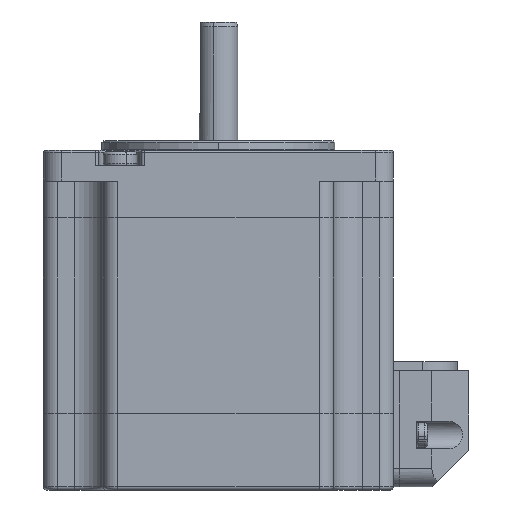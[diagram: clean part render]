
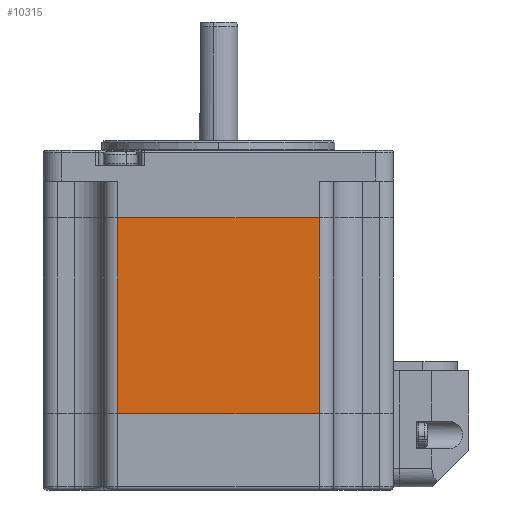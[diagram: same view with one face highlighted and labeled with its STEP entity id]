
A CAD part, left-side view. The second image highlights one B-rep face of the part: STEP entity #10315.
In plain terms, the highlighted planar face has unit normal (-1, 0, 0).
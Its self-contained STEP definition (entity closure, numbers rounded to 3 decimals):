
#266 = DIRECTION ( 'NONE',  ( 1., 0., 0. ) ) ;
#433 = CARTESIAN_POINT ( 'NONE',  ( -28.6, -16.5, -16. ) ) ;
#747 = CARTESIAN_POINT ( 'NONE',  ( -28.6, -16.5, 16. ) ) ;
#993 = DIRECTION ( 'NONE',  ( 0., -1., 0. ) ) ;
#5984 = EDGE_CURVE ( 'NONE', #33075, #26362, #43573, .T. ) ;
#10315 = ADVANCED_FACE ( 'NONE', ( #27226 ), #28705, .F. ) ;
#10761 = VECTOR ( 'NONE', #39530, 1000. ) ;
#10762 = EDGE_CURVE ( 'NONE', #26362, #53245, #35107, .T. ) ;
#16219 = CARTESIAN_POINT ( 'NONE',  ( -28.6, 16.5, 16. ) ) ;
#20163 = VECTOR ( 'NONE', #67175, 1000. ) ;
#21355 = CARTESIAN_POINT ( 'NONE',  ( -28.6, 16.5, 16. ) ) ;
#26362 = VERTEX_POINT ( 'NONE', #50468 ) ;
#27064 = EDGE_LOOP ( 'NONE', ( #48653, #37285, #62347, #42493 ) ) ;
#27226 = FACE_OUTER_BOUND ( 'NONE', #27064, .T. ) ;
#28705 = PLANE ( 'NONE',  #64914 ) ;
#33075 = VERTEX_POINT ( 'NONE', #16219 ) ;
#35107 = LINE ( 'NONE', #433, #20163 ) ;
#37285 = ORIENTED_EDGE ( 'NONE', *, *, #39293, .F. ) ;
#38642 = CARTESIAN_POINT ( 'NONE',  ( -28.6, -16.5, 16. ) ) ;
#39293 = EDGE_CURVE ( 'NONE', #51354, #53245, #39720, .T. ) ;
#39530 = DIRECTION ( 'NONE',  ( 0., 0., -1. ) ) ;
#39720 = LINE ( 'NONE', #66036, #10761 ) ;
#40265 = DIRECTION ( 'NONE',  ( 0., 1., 0. ) ) ;
#40508 = CARTESIAN_POINT ( 'NONE',  ( -28.6, -16.5, 16. ) ) ;
#42493 = ORIENTED_EDGE ( 'NONE', *, *, #5984, .T. ) ;
#43573 = LINE ( 'NONE', #21355, #58500 ) ;
#48653 = ORIENTED_EDGE ( 'NONE', *, *, #10762, .T. ) ;
#50468 = CARTESIAN_POINT ( 'NONE',  ( -28.6, 16.5, -16. ) ) ;
#51354 = VERTEX_POINT ( 'NONE', #38642 ) ;
#52731 = LINE ( 'NONE', #40508, #65882 ) ;
#53106 = CARTESIAN_POINT ( 'NONE',  ( -28.6, -16.5, -16. ) ) ;
#53245 = VERTEX_POINT ( 'NONE', #53106 ) ;
#55974 = DIRECTION ( 'NONE',  ( 0., 0., -1. ) ) ;
#58500 = VECTOR ( 'NONE', #55974, 1000. ) ;
#60730 = EDGE_CURVE ( 'NONE', #33075, #51354, #52731, .T. ) ;
#62347 = ORIENTED_EDGE ( 'NONE', *, *, #60730, .F. ) ;
#64914 = AXIS2_PLACEMENT_3D ( 'NONE', #747, #266, #40265 ) ;
#65882 = VECTOR ( 'NONE', #993, 1000. ) ;
#66036 = CARTESIAN_POINT ( 'NONE',  ( -28.6, -16.5, 16. ) ) ;
#67175 = DIRECTION ( 'NONE',  ( 0., -1., 0. ) ) ;
